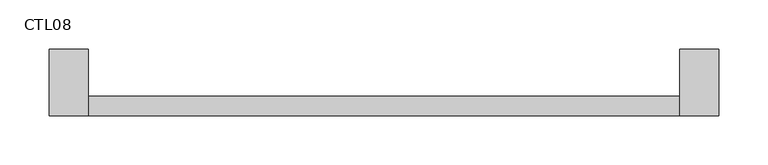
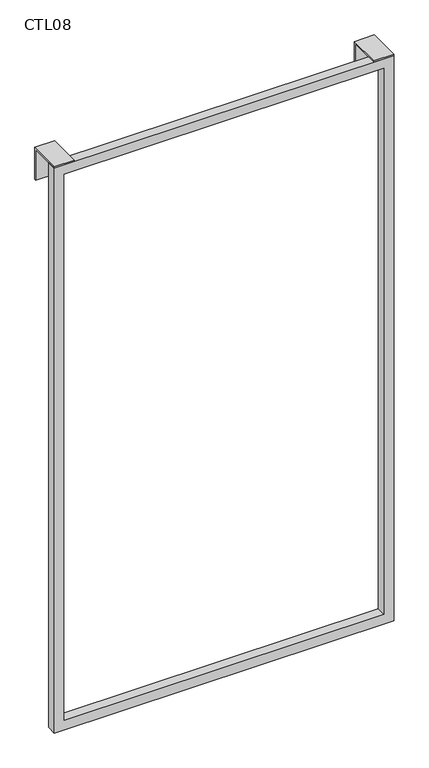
"""IFC4 building model written with IfcOpenShell, lengths in millimetres: furniture geometry, Mobiliário_Mobiliário de Escritório_Suporte - CTSA_Marelli : CTL08."""

from ifc_helpers import new_model, si_unit, frame, origin, place, context, project, spatial, polyline, outline, extrude, source, transform, mapped, element, save


def ctl08_a365a440(model_context):
    return source(origin(), model_context, "Body", "SweptSolid", [
        extrude(outline(polyline([(0.0, 683.0), (1200.0, 683.0), (1200.0, 0.0), (0.0, 0.0), (0.0, 683.0)]), holes=[polyline([(1180.0, 20.0), (1180.0, 663.0), (20.0, 663.0), (20.0, 20.0), (1180.0, 20.0)])]), frame((0.0, -20.0, 0.0), z_axis=(0.0, 1.0, 0.0), x_axis=(0.0, 0.0, 1.0)), (0.0, 0.0, 1.0), 20.0),
        extrude(outline(polyline([(45.0, 1200.0), (-20.0, 1200.0), (-20.0, 1203.0), (48.0, 1203.0), (48.0, 1135.0), (45.0, 1135.0), (45.0, 1200.0)])), frame((0.0, 0.0, 0.0), z_axis=(1.0, 0.0, 0.0), x_axis=(0.0, 1.0, 0.0)), (0.0, 0.0, 1.0), 40.0),
        extrude(outline(polyline([(45.0, 1200.0), (-20.0, 1200.0), (-20.0, 1203.0), (48.0, 1203.0), (48.0, 1135.0), (45.0, 1135.0), (45.0, 1200.0)])), frame((643.0, 0.0, 0.0), z_axis=(1.0, 0.0, 0.0), x_axis=(0.0, 1.0, 0.0)), (0.0, 0.0, 1.0), 40.0),
    ])


if __name__ == "__main__":
    model = new_model("IFC4")
    model_context = context("Model", 3, world=origin())
    ifc_project = project(units=[si_unit("LENGTHUNIT", "METRE", prefix="MILLI")], contexts=[model_context])
    site = spatial("IfcSite", under=ifc_project)
    building = spatial("IfcBuilding", under=site)
    placement = place(None, origin())
    ctl08_shape = ctl08_a365a440(model_context)
    element("IfcFurniture", 1, ObjectType="Mobiliário_Mobiliário de Escritório_Suporte - CTSA_Marelli : CTL08", at=placement, inside=building, context=model_context, shape_type="MappedRepresentation", body=[
        mapped(ctl08_shape, transform((0.0, 0.0, 0.0), x_axis=(1.0, 0.0, 0.0), y_axis=(0.0, 1.0, 0.0), z_axis=(0.0, 0.0, 1.0))),
    ])
    save(model, "model.ifc")
